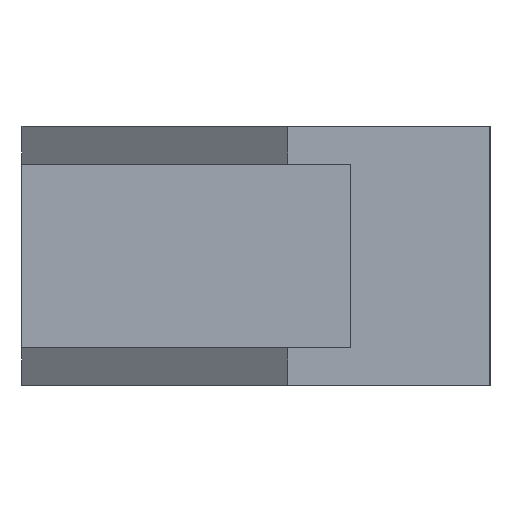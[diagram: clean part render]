
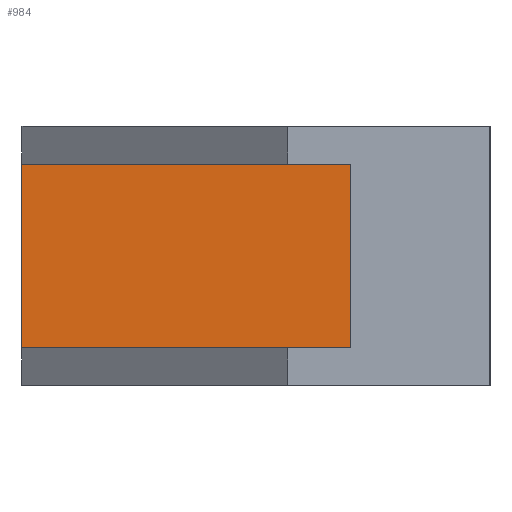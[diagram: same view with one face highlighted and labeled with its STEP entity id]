
A CAD part, left-side view. The second image highlights one B-rep face of the part: STEP entity #984.
In plain terms, the highlighted planar face has unit normal (-1, 0, 0).
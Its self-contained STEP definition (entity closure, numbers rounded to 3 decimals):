
#47 = CARTESIAN_POINT ( 'NONE',  ( -37.5, 11., -7.25 ) ) ;
#49 = VECTOR ( 'NONE', #977, 1000. ) ;
#69 = FACE_OUTER_BOUND ( 'NONE', #949, .T. ) ;
#110 = DIRECTION ( 'NONE',  ( 0., 0., -1. ) ) ;
#216 = CARTESIAN_POINT ( 'NONE',  ( -37.5, 37., -7.25 ) ) ;
#258 = EDGE_CURVE ( 'NONE', #526, #288, #299, .T. ) ;
#288 = VERTEX_POINT ( 'NONE', #463 ) ;
#296 = ORIENTED_EDGE ( 'NONE', *, *, #258, .T. ) ;
#299 = LINE ( 'NONE', #909, #309 ) ;
#309 = VECTOR ( 'NONE', #799, 1000. ) ;
#319 = LINE ( 'NONE', #216, #382 ) ;
#327 = ORIENTED_EDGE ( 'NONE', *, *, #663, .F. ) ;
#382 = VECTOR ( 'NONE', #110, 1000. ) ;
#406 = EDGE_CURVE ( 'NONE', #417, #882, #782, .T. ) ;
#417 = VERTEX_POINT ( 'NONE', #447 ) ;
#432 = VECTOR ( 'NONE', #494, 1000. ) ;
#445 = PLANE ( 'NONE',  #920 ) ;
#447 = CARTESIAN_POINT ( 'NONE',  ( -37.5, 11., -7.25 ) ) ;
#463 = CARTESIAN_POINT ( 'NONE',  ( -37.5, 37., 7.25 ) ) ;
#494 = DIRECTION ( 'NONE',  ( 0., 0., -1. ) ) ;
#520 = ORIENTED_EDGE ( 'NONE', *, *, #820, .T. ) ;
#526 = VERTEX_POINT ( 'NONE', #642 ) ;
#527 = DIRECTION ( 'NONE',  ( 0., 0., -1. ) ) ;
#604 = CARTESIAN_POINT ( 'NONE',  ( -37.5, 11., -7.25 ) ) ;
#634 = DIRECTION ( 'NONE',  ( 1., 0., 0. ) ) ;
#642 = CARTESIAN_POINT ( 'NONE',  ( -37.5, 11., 7.25 ) ) ;
#663 = EDGE_CURVE ( 'NONE', #526, #417, #704, .T. ) ;
#688 = ORIENTED_EDGE ( 'NONE', *, *, #406, .F. ) ;
#704 = LINE ( 'NONE', #604, #432 ) ;
#736 = CARTESIAN_POINT ( 'NONE',  ( -37.5, 11., -7.25 ) ) ;
#782 = LINE ( 'NONE', #47, #49 ) ;
#799 = DIRECTION ( 'NONE',  ( 0., 1., 0. ) ) ;
#820 = EDGE_CURVE ( 'NONE', #288, #882, #319, .T. ) ;
#882 = VERTEX_POINT ( 'NONE', #988 ) ;
#909 = CARTESIAN_POINT ( 'NONE',  ( -37.5, 11., 7.25 ) ) ;
#920 = AXIS2_PLACEMENT_3D ( 'NONE', #736, #634, #527 ) ;
#949 = EDGE_LOOP ( 'NONE', ( #520, #688, #327, #296 ) ) ;
#977 = DIRECTION ( 'NONE',  ( 0., 1., 0. ) ) ;
#984 = ADVANCED_FACE ( 'NONE', ( #69 ), #445, .F. ) ;
#988 = CARTESIAN_POINT ( 'NONE',  ( -37.5, 37., -7.25 ) ) ;
